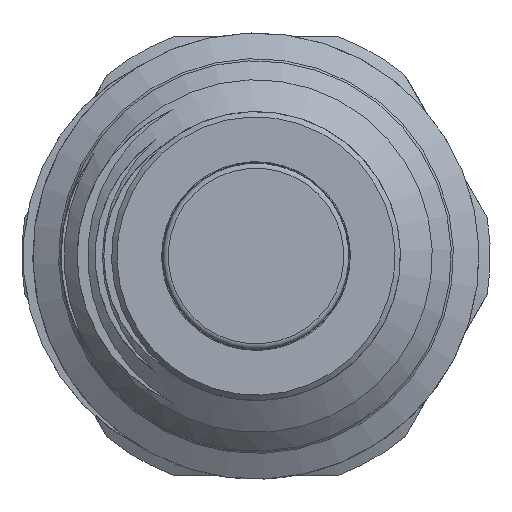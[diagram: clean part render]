
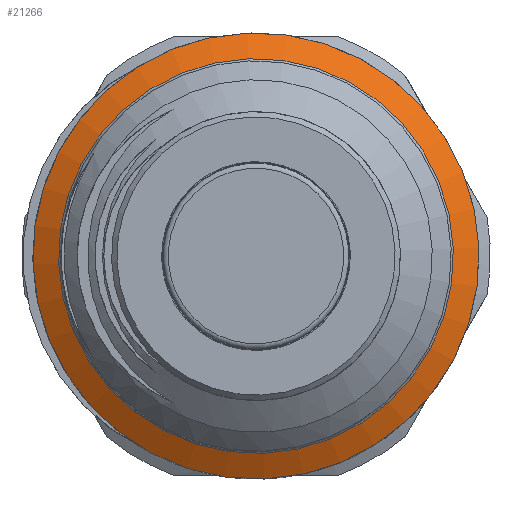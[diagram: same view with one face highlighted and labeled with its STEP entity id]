
A CAD part, front view. The second image highlights one B-rep face of the part: STEP entity #21266.
In plain terms, the highlighted conical face has half-angle 60 degrees and reference radius 19.55 mm.
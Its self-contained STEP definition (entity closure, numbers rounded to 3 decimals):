
#1967=CONICAL_SURFACE('',#22231,19.55,1.047);
#2480=LINE('',#36075,#3712);
#3712=VECTOR('',#23860,19.55);
#6508=FACE_OUTER_BOUND('',#7663,.T.);
#7663=EDGE_LOOP('',(#16745,#16746,#16747,#16748,#16749));
#8496=CIRCLE('',#22232,20.85);
#8497=CIRCLE('',#22233,18.45);
#8498=CIRCLE('',#22234,18.45);
#9681=VERTEX_POINT('',#36072);
#9682=VERTEX_POINT('',#36074);
#9683=VERTEX_POINT('',#36076);
#12252=EDGE_CURVE('',#9681,#9681,#8496,.T.);
#12253=EDGE_CURVE('',#9681,#9682,#2480,.T.);
#12254=EDGE_CURVE('',#9683,#9682,#8497,.T.);
#12255=EDGE_CURVE('',#9682,#9683,#8498,.T.);
#16745=ORIENTED_EDGE('',*,*,#12252,.F.);
#16746=ORIENTED_EDGE('',*,*,#12253,.T.);
#16747=ORIENTED_EDGE('',*,*,#12254,.F.);
#16748=ORIENTED_EDGE('',*,*,#12255,.F.);
#16749=ORIENTED_EDGE('',*,*,#12253,.F.);
#21266=ADVANCED_FACE('',(#6508),#1967,.T.);
#22231=AXIS2_PLACEMENT_3D('',#36071,#23856,#23857);
#22232=AXIS2_PLACEMENT_3D('',#36073,#23858,#23859);
#22233=AXIS2_PLACEMENT_3D('',#36077,#23861,#23862);
#22234=AXIS2_PLACEMENT_3D('',#36078,#23863,#23864);
#23856=DIRECTION('center_axis',(0.,1.,0.));
#23857=DIRECTION('ref_axis',(-0.999,0.,-0.038));
#23858=DIRECTION('center_axis',(0.,1.,0.));
#23859=DIRECTION('ref_axis',(0.999,0.,0.038));
#23860=DIRECTION('',(-0.865,-0.5,-0.033));
#23861=DIRECTION('center_axis',(0.,-1.,0.));
#23862=DIRECTION('ref_axis',(0.999,0.,0.038));
#23863=DIRECTION('center_axis',(0.,-1.,0.));
#23864=DIRECTION('ref_axis',(0.999,0.,0.038));
#36071=CARTESIAN_POINT('Origin',(1.763,-30.239,0.732));
#36072=CARTESIAN_POINT('',(22.598,-29.488,1.517));
#36073=CARTESIAN_POINT('Origin',(1.763,-29.488,0.732));
#36074=CARTESIAN_POINT('',(20.2,-30.874,1.427));
#36075=CARTESIAN_POINT('',(21.299,-30.239,1.468));
#36076=CARTESIAN_POINT('',(2.458,-30.874,-17.705));
#36077=CARTESIAN_POINT('Origin',(1.763,-30.874,0.732));
#36078=CARTESIAN_POINT('Origin',(1.763,-30.874,0.732));
